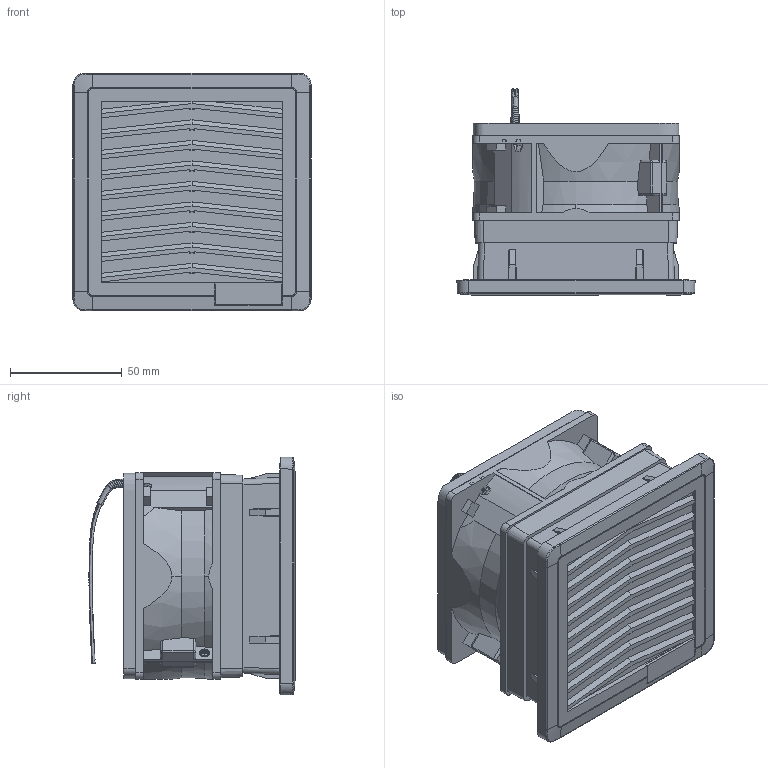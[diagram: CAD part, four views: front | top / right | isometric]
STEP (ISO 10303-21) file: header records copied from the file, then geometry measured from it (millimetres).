
FILE_DESCRIPTION (( 'STEP AP214' ), '1' );
FILE_NAME ('FF08GAxxxyF.STEP', '2023-10-10T08:16:50', ( '' ), ( '' ), 'SwSTEP 2.0', 'SolidWorks 2022', '' );
FILE_SCHEMA (( 'AUTOMOTIVE_DESIGN' ));
Length unit declared in the file: millimetre
Products named in the file (7): DT-00242DSI_Coperchio semplificato; G92_Semplificata; DT-04082DSI_mostrina semplificata; A09B23HWB_Semplificato con cavo; FF08BGJ-xxxx_base semplificata; FF08GAxxxyF; DT-01001DSI_semplificata
Assembly tree (6 placements, depth 2):
  FF08GAxxxyF
    FF08BGJ-xxxx_base semplificata
    A09B23HWB_Semplificato con cavo
    G92_Semplificata
    DT-00242DSI_Coperchio semplificato
    DT-01001DSI_semplificata
    DT-04082DSI_mostrina semplificata
Bounding box: 106.6 x 92.26 x 106.54 mm (x, y, z)
Volume: 620863 mm3; surface area: 133786 mm2
Topology: 6 solids, 7 shells, 716 faces, 1846 edges, 1195 vertices
Faces by surface type: plane 520, bspline 109, cylinder 56, cone 26, torus 5
Entity records: 28300 total; most frequent: CARTESIAN_POINT 11593, ORIENTED_EDGE 3676, DIRECTION 2827, EDGE_CURVE 1838, LINE 1351, VECTOR 1351, VERTEX_POINT 1195, EDGE_LOOP 775
